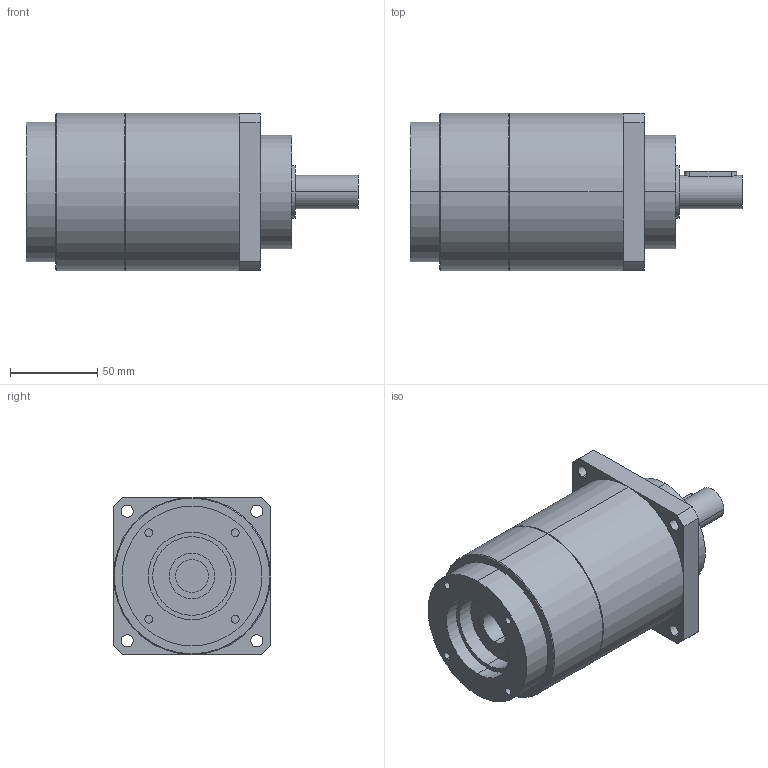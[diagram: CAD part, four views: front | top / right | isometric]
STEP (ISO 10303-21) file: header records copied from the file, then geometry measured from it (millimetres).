
FILE_DESCRIPTION(('CoCreate Modeling STEP Export'),'2;1');
FILE_NAME('GPT90_ig-9-12-16-20-25-28-35-40-50-70-100_19_B5T_19_P15.stp','2015-02-04T11:32:57',(''),(''),'CoCreate Modeling STEP processor for AP214 (Solid Model)','CoCreate Modeling 16.00C 25-Feb-2009 (C) Parametric Technology GmbH','');
FILE_SCHEMA(('AUTOMOTIVE_DESIGN { 1 0 10303 214 1 1 1 1 }'));
Length unit declared in the file: millimetre
Products named in the file (2): GPT90_ig-9-12-16-20-25-28-35-40-50-70-100_19_B5T_19_P15
Assembly tree (1 placements, depth 2):
  GPT90_ig-9-12-16-20-25-28-35-40-50-70-100_19_B5T_19_P15
    GPT90_ig-9-12-16-20-25-28-35-40-50-70-100_19_B5T_19_P15
Bounding box: 190 x 90 x 90 mm (x, y, z)
Volume: 879986.4 mm3; surface area: 67417 mm2
Topology: 1 solids, 1 shells, 75 faces, 190 edges, 131 vertices
Faces by surface type: cylinder 44, plane 27, cone 4
Entity records: 2388 total; most frequent: CARTESIAN_POINT 704, ORIENTED_EDGE 380, DIRECTION 282, EDGE_CURVE 190, VERTEX_POINT 131, AXIS2_PLACEMENT_3D 106, EDGE_LOOP 97, FACE_OUTER_BOUND 75
